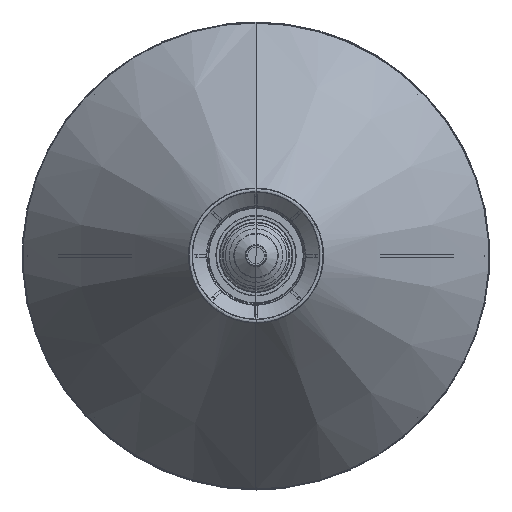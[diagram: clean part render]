
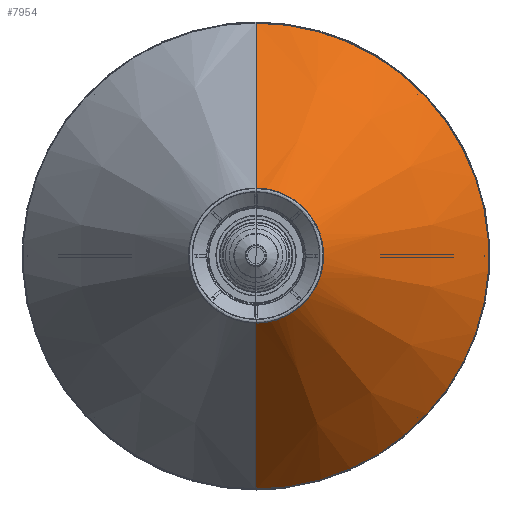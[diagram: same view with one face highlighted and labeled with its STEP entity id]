
A CAD part, top view. The second image highlights one B-rep face of the part: STEP entity #7954.
In plain terms, the highlighted conical face has half-angle 35.4 degrees and reference radius 307.372 mm.
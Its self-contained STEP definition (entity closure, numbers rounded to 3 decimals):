
#729=B_SPLINE_CURVE_WITH_KNOTS('',3,(#25697,#25698,#25699,#25700,#25701,
#25702,#25703,#25704,#25705,#25706,#25707,#25708),.UNSPECIFIED.,.F.,.F.,
(4,1,1,1,1,1,1,1,1,4),(0.,0.111,0.222,0.333,
0.444,0.556,0.667,0.778,
0.889,1.),.UNSPECIFIED.);
#732=B_SPLINE_CURVE_WITH_KNOTS('',3,(#25805,#25806,#25807,#25808,#25809,
#25810,#25811,#25812,#25813,#25814,#25815,#25816,#25817,#25818,#25819,#25820,
#25821,#25822,#25823),.UNSPECIFIED.,.F.,.F.,(4,1,1,1,1,1,1,1,1,1,1,1,1,
1,1,1,4),(0.,0.063,0.125,0.188,0.25,0.313,0.375,0.438,0.5,0.563,0.625,
0.688,0.75,0.813,0.875,0.938,1.),.UNSPECIFIED.);
#840=CONICAL_SURFACE('',#8748,307.372,0.618);
#1480=FACE_OUTER_BOUND('',#2010,.T.);
#2010=EDGE_LOOP('',(#7150,#7151,#7152,#7153));
#2636=LINE('',#25803,#2986);
#2637=LINE('',#25824,#2987);
#2986=VECTOR('',#10610,304.8);
#2987=VECTOR('',#10611,304.8);
#3672=VERTEX_POINT('',#25616);
#3673=VERTEX_POINT('',#25696);
#3674=VERTEX_POINT('',#25802);
#3675=VERTEX_POINT('',#25804);
#4831=EDGE_CURVE('',#3673,#3672,#729,.T.);
#4834=EDGE_CURVE('',#3674,#3672,#2636,.T.);
#4835=EDGE_CURVE('',#3675,#3674,#732,.T.);
#4836=EDGE_CURVE('',#3673,#3675,#2637,.T.);
#7150=ORIENTED_EDGE('',*,*,#4831,.T.);
#7151=ORIENTED_EDGE('',*,*,#4834,.F.);
#7152=ORIENTED_EDGE('',*,*,#4835,.F.);
#7153=ORIENTED_EDGE('',*,*,#4836,.F.);
#7954=ADVANCED_FACE('',(#1480),#840,.T.);
#8748=AXIS2_PLACEMENT_3D('',#25801,#10608,#10609);
#10608=DIRECTION('center_axis',(0.,0.,-1.));
#10609=DIRECTION('ref_axis',(1.,0.,0.));
#10610=DIRECTION('',(0.,0.579,0.815));
#10611=DIRECTION('',(0.,0.579,-0.815));
#25616=CARTESIAN_POINT('',(0.,-95.786,374.547));
#25696=CARTESIAN_POINT('',(0.,95.786,374.547));
#25697=CARTESIAN_POINT('Ctrl Pts',(0.,95.786,
374.547));
#25698=CARTESIAN_POINT('Ctrl Pts',(11.173,95.866,374.547));
#25699=CARTESIAN_POINT('Ctrl Pts',(33.419,91.819,374.547));
#25700=CARTESIAN_POINT('Ctrl Pts',(62.837,74.891,374.547));
#25701=CARTESIAN_POINT('Ctrl Pts',(84.654,48.873,374.547));
#25702=CARTESIAN_POINT('Ctrl Pts',(96.266,16.975,374.547));
#25703=CARTESIAN_POINT('Ctrl Pts',(96.266,-16.975,374.547));
#25704=CARTESIAN_POINT('Ctrl Pts',(84.654,-48.873,374.547));
#25705=CARTESIAN_POINT('Ctrl Pts',(62.837,-74.891,374.547));
#25706=CARTESIAN_POINT('Ctrl Pts',(33.419,-91.819,374.547));
#25707=CARTESIAN_POINT('Ctrl Pts',(11.173,-95.866,374.547));
#25708=CARTESIAN_POINT('Ctrl Pts',(0.,-95.786,
374.547));
#25801=CARTESIAN_POINT('Origin',(0.,0.,76.816));
#25802=CARTESIAN_POINT('',(0.,-330.881,43.735));
#25803=CARTESIAN_POINT('',(0.,-330.881,43.735));
#25804=CARTESIAN_POINT('',(0.,330.881,43.735));
#25805=CARTESIAN_POINT('Ctrl Pts',(0.,330.881,
43.735));
#25806=CARTESIAN_POINT('Ctrl Pts',(21.662,330.91,43.735));
#25807=CARTESIAN_POINT('Ctrl Pts',(64.965,326.602,43.735));
#25808=CARTESIAN_POINT('Ctrl Pts',(127.44,307.669,43.735));
#25809=CARTESIAN_POINT('Ctrl Pts',(185.013,276.89,43.735));
#25810=CARTESIAN_POINT('Ctrl Pts',(235.477,235.477,43.735));
#25811=CARTESIAN_POINT('Ctrl Pts',(276.891,185.013,43.735));
#25812=CARTESIAN_POINT('Ctrl Pts',(307.665,127.439,43.735));
#25813=CARTESIAN_POINT('Ctrl Pts',(326.615,64.968,43.735));
#25814=CARTESIAN_POINT('Ctrl Pts',(333.014,0.,
43.735));
#25815=CARTESIAN_POINT('Ctrl Pts',(326.615,-64.968,43.735));
#25816=CARTESIAN_POINT('Ctrl Pts',(307.665,-127.439,43.735));
#25817=CARTESIAN_POINT('Ctrl Pts',(276.891,-185.013,43.735));
#25818=CARTESIAN_POINT('Ctrl Pts',(235.477,-235.477,43.735));
#25819=CARTESIAN_POINT('Ctrl Pts',(185.013,-276.89,43.735));
#25820=CARTESIAN_POINT('Ctrl Pts',(127.44,-307.669,43.735));
#25821=CARTESIAN_POINT('Ctrl Pts',(64.965,-326.602,43.735));
#25822=CARTESIAN_POINT('Ctrl Pts',(21.662,-330.91,43.735));
#25823=CARTESIAN_POINT('Ctrl Pts',(0.,-330.881,
43.735));
#25824=CARTESIAN_POINT('',(0.,95.786,374.547));
